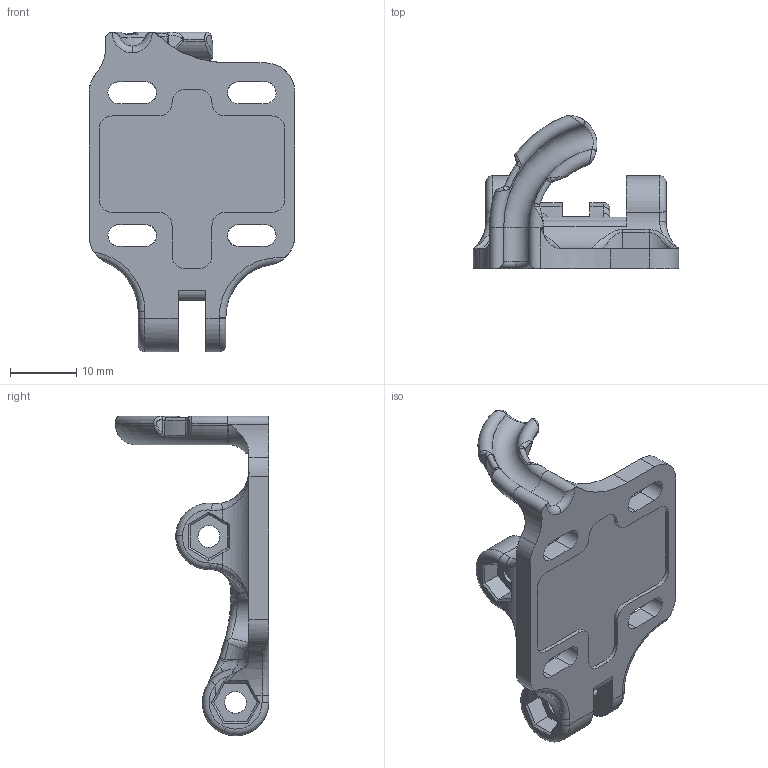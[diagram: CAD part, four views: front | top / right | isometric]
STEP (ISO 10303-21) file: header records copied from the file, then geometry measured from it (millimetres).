
FILE_DESCRIPTION(('CATIA V5 STEP Exchange'),'2;1');
FILE_NAME('E:\Dropbox\3D Printer Fan Duct Designs\1.) Artillery Sidewinder X1\3D Models\5015 Double Ducts\VOLCANO\Volcano ALL Step Files\LH Fan Bracket.stp','2021-03-06T10:55:27+00:00',('none'),('none'),'CATIA Version 5 Release 20 SP 1 (IN-10)','CATIA V5 STEP AP214','none');
FILE_SCHEMA(('AUTOMOTIVE_DESIGN { 1 0 10303 214 1 1 1 1 }'));
Length unit declared in the file: millimetre
Products named in the file (1): LH Fan Bracket
Bounding box: 31 x 23.1 x 48.1 mm (x, y, z)
Volume: 5945.4 mm3; surface area: 4408.7 mm2
Topology: 1 solids, 1 shells, 267 faces, 767 edges, 502 vertices
Faces by surface type: cylinder 94, plane 74, bspline 62, torus 35, cone 2
Entity records: 14162 total; most frequent: CARTESIAN_POINT 7975, ORIENTED_EDGE 1534, DIRECTION 846, EDGE_CURVE 767, VERTEX_POINT 502, AXIS2_PLACEMENT_3D 402, B_SPLINE_CURVE_WITH_KNOTS 329, EDGE_LOOP 283
